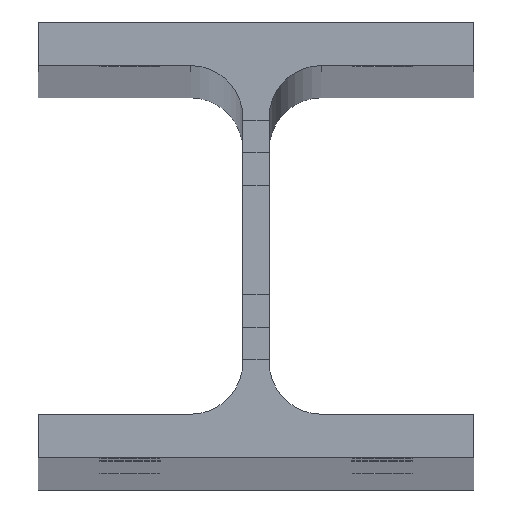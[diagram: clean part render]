
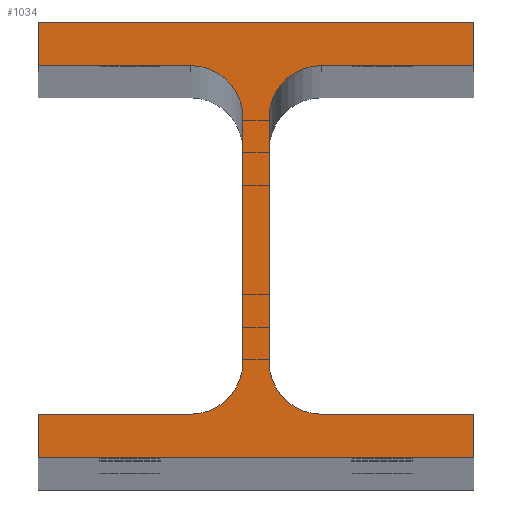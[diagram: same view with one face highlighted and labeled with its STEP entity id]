
A CAD part, top view. The second image highlights one B-rep face of the part: STEP entity #1034.
In plain terms, the highlighted planar face has unit normal (0, 0, 1).
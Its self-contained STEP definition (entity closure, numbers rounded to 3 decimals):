
#97 = DIRECTION ( 'NONE',  ( 0., 0., -1. ) ) ;
#137 = LINE ( 'NONE', #574, #2325 ) ;
#165 = CARTESIAN_POINT ( 'NONE',  ( 3., 28., 4250. ) ) ;
#179 = LINE ( 'NONE', #2292, #3612 ) ;
#199 = EDGE_CURVE ( 'NONE', #3141, #2068, #179, .T. ) ;
#304 = CIRCLE ( 'NONE', #5394, 12. ) ;
#369 = ORIENTED_EDGE ( 'NONE', *, *, #3674, .T. ) ;
#429 = ORIENTED_EDGE ( 'NONE', *, *, #556, .T. ) ;
#447 = DIRECTION ( 'NONE',  ( 1., 0., 0. ) ) ;
#527 = CARTESIAN_POINT ( 'NONE',  ( 50., -50., 4250. ) ) ;
#552 = VERTEX_POINT ( 'NONE', #3012 ) ;
#555 = DIRECTION ( 'NONE',  ( 0., 0., -1. ) ) ;
#556 = EDGE_CURVE ( 'NONE', #3086, #3516, #137, .T. ) ;
#564 = CIRCLE ( 'NONE', #3284, 12. ) ;
#574 = CARTESIAN_POINT ( 'NONE',  ( 3., 28., 4250. ) ) ;
#648 = LINE ( 'NONE', #1114, #2508 ) ;
#689 = DIRECTION ( 'NONE',  ( -1., 0., 0. ) ) ;
#722 = ORIENTED_EDGE ( 'NONE', *, *, #2072, .T. ) ;
#750 = DIRECTION ( 'NONE',  ( 1., 0., 0. ) ) ;
#816 = DIRECTION ( 'NONE',  ( 0., 0., -1. ) ) ;
#823 = DIRECTION ( 'NONE',  ( -1., 0., 0. ) ) ;
#926 = DIRECTION ( 'NONE',  ( 0., 0., -1. ) ) ;
#943 = FACE_OUTER_BOUND ( 'NONE', #1554, .T. ) ;
#961 = EDGE_CURVE ( 'NONE', #5264, #1382, #1646, .T. ) ;
#969 = PLANE ( 'NONE',  #3451 ) ;
#974 = CARTESIAN_POINT ( 'NONE',  ( -15., 40., 4250. ) ) ;
#1029 = DIRECTION ( 'NONE',  ( -1., 0., 0. ) ) ;
#1034 = ADVANCED_FACE ( 'NONE', ( #943 ), #969, .F. ) ;
#1114 = CARTESIAN_POINT ( 'NONE',  ( 15., -40., 4250. ) ) ;
#1252 = DIRECTION ( 'NONE',  ( -1., 0., 0. ) ) ;
#1379 = CARTESIAN_POINT ( 'NONE',  ( 50., 40., 4250. ) ) ;
#1382 = VERTEX_POINT ( 'NONE', #5033 ) ;
#1440 = VECTOR ( 'NONE', #3907, 1000. ) ;
#1476 = VECTOR ( 'NONE', #750, 1000. ) ;
#1554 = EDGE_LOOP ( 'NONE', ( #3763, #1886, #2619, #4282, #1608, #5419, #2458, #2626, #3957, #3307, #2639, #429, #2126, #722, #4816, #369 ) ) ;
#1566 = CARTESIAN_POINT ( 'NONE',  ( -3., -28., 4250. ) ) ;
#1604 = CARTESIAN_POINT ( 'NONE',  ( -15., -28., 4250. ) ) ;
#1608 = ORIENTED_EDGE ( 'NONE', *, *, #2646, .T. ) ;
#1643 = AXIS2_PLACEMENT_3D ( 'NONE', #3909, #97, #4238 ) ;
#1646 = LINE ( 'NONE', #2900, #3023 ) ;
#1662 = CARTESIAN_POINT ( 'NONE',  ( -50., -40., 4250. ) ) ;
#1811 = VECTOR ( 'NONE', #3611, 1000. ) ;
#1831 = LINE ( 'NONE', #1379, #1440 ) ;
#1839 = LINE ( 'NONE', #4373, #4700 ) ;
#1866 = CARTESIAN_POINT ( 'NONE',  ( -15., 28., 4250. ) ) ;
#1880 = CARTESIAN_POINT ( 'NONE',  ( -50., 50., 4250. ) ) ;
#1886 = ORIENTED_EDGE ( 'NONE', *, *, #5368, .T. ) ;
#2063 = DIRECTION ( 'NONE',  ( 0., 0., -1. ) ) ;
#2068 = VERTEX_POINT ( 'NONE', #4744 ) ;
#2072 = EDGE_CURVE ( 'NONE', #3421, #3141, #1831, .T. ) ;
#2126 = ORIENTED_EDGE ( 'NONE', *, *, #4924, .T. ) ;
#2284 = DIRECTION ( 'NONE',  ( 0., 1., 0. ) ) ;
#2292 = CARTESIAN_POINT ( 'NONE',  ( 50., 50., 4250. ) ) ;
#2325 = VECTOR ( 'NONE', #2284, 1000. ) ;
#2362 = VECTOR ( 'NONE', #1252, 1000. ) ;
#2458 = ORIENTED_EDGE ( 'NONE', *, *, #4584, .T. ) ;
#2502 = VECTOR ( 'NONE', #689, 1000. ) ;
#2508 = VECTOR ( 'NONE', #1029, 1000. ) ;
#2599 = CIRCLE ( 'NONE', #4706, 12. ) ;
#2600 = CARTESIAN_POINT ( 'NONE',  ( 15., 28., 4250. ) ) ;
#2611 = DIRECTION ( 'NONE',  ( 1., 0., 0. ) ) ;
#2619 = ORIENTED_EDGE ( 'NONE', *, *, #4538, .T. ) ;
#2626 = ORIENTED_EDGE ( 'NONE', *, *, #5060, .T. ) ;
#2639 = ORIENTED_EDGE ( 'NONE', *, *, #2883, .T. ) ;
#2646 = EDGE_CURVE ( 'NONE', #2737, #4743, #304, .T. ) ;
#2737 = VERTEX_POINT ( 'NONE', #4226 ) ;
#2807 = CARTESIAN_POINT ( 'NONE',  ( 50., -40., 4250. ) ) ;
#2849 = CARTESIAN_POINT ( 'NONE',  ( 3., -28., 4250. ) ) ;
#2883 = EDGE_CURVE ( 'NONE', #5009, #3086, #564, .T. ) ;
#2891 = LINE ( 'NONE', #1662, #2362 ) ;
#2900 = CARTESIAN_POINT ( 'NONE',  ( -50., 40., 4250. ) ) ;
#2923 = CARTESIAN_POINT ( 'NONE',  ( -15., -40., 4250. ) ) ;
#2972 = DIRECTION ( 'NONE',  ( -1., 0., 0. ) ) ;
#3012 = CARTESIAN_POINT ( 'NONE',  ( -50., -50., 4250. ) ) ;
#3023 = VECTOR ( 'NONE', #4323, 1000. ) ;
#3086 = VERTEX_POINT ( 'NONE', #2849 ) ;
#3141 = VERTEX_POINT ( 'NONE', #4855 ) ;
#3152 = EDGE_CURVE ( 'NONE', #4799, #2737, #3637, .T. ) ;
#3209 = CARTESIAN_POINT ( 'NONE',  ( -50., 50., 4250. ) ) ;
#3284 = AXIS2_PLACEMENT_3D ( 'NONE', #3645, #816, #5363 ) ;
#3301 = CIRCLE ( 'NONE', #1643, 12. ) ;
#3307 = ORIENTED_EDGE ( 'NONE', *, *, #3911, .T. ) ;
#3421 = VERTEX_POINT ( 'NONE', #4610 ) ;
#3451 = AXIS2_PLACEMENT_3D ( 'NONE', #2600, #555, #2972 ) ;
#3516 = VERTEX_POINT ( 'NONE', #165 ) ;
#3554 = VECTOR ( 'NONE', #447, 1000. ) ;
#3611 = DIRECTION ( 'NONE',  ( 0., -1., 0. ) ) ;
#3612 = VECTOR ( 'NONE', #3651, 1000. ) ;
#3637 = LINE ( 'NONE', #1566, #4073 ) ;
#3645 = CARTESIAN_POINT ( 'NONE',  ( 15., -28., 4250. ) ) ;
#3651 = DIRECTION ( 'NONE',  ( 0., 1., 0. ) ) ;
#3652 = CARTESIAN_POINT ( 'NONE',  ( -15., 40., 4250. ) ) ;
#3674 = EDGE_CURVE ( 'NONE', #2068, #5264, #4456, .T. ) ;
#3763 = ORIENTED_EDGE ( 'NONE', *, *, #961, .T. ) ;
#3907 = DIRECTION ( 'NONE',  ( 1., 0., 0. ) ) ;
#3909 = CARTESIAN_POINT ( 'NONE',  ( 15., 28., 4250. ) ) ;
#3911 = EDGE_CURVE ( 'NONE', #4404, #5009, #648, .T. ) ;
#3937 = CARTESIAN_POINT ( 'NONE',  ( -3., 28., 4250. ) ) ;
#3957 = ORIENTED_EDGE ( 'NONE', *, *, #4558, .T. ) ;
#4073 = VECTOR ( 'NONE', #5381, 1000. ) ;
#4119 = CARTESIAN_POINT ( 'NONE',  ( -50., -40., 4250. ) ) ;
#4226 = CARTESIAN_POINT ( 'NONE',  ( -3., -28., 4250. ) ) ;
#4238 = DIRECTION ( 'NONE',  ( -1., 0., 0. ) ) ;
#4282 = ORIENTED_EDGE ( 'NONE', *, *, #3152, .T. ) ;
#4323 = DIRECTION ( 'NONE',  ( 0., -1., 0. ) ) ;
#4370 = VERTEX_POINT ( 'NONE', #4119 ) ;
#4373 = CARTESIAN_POINT ( 'NONE',  ( 50., -40., 4250. ) ) ;
#4404 = VERTEX_POINT ( 'NONE', #2807 ) ;
#4449 = CARTESIAN_POINT ( 'NONE',  ( 15., -40., 4250. ) ) ;
#4456 = LINE ( 'NONE', #3209, #2502 ) ;
#4481 = LINE ( 'NONE', #4858, #1811 ) ;
#4526 = CARTESIAN_POINT ( 'NONE',  ( 50., -50., 4250. ) ) ;
#4538 = EDGE_CURVE ( 'NONE', #4871, #4799, #2599, .T. ) ;
#4558 = EDGE_CURVE ( 'NONE', #5126, #4404, #1839, .T. ) ;
#4584 = EDGE_CURVE ( 'NONE', #4370, #552, #4481, .T. ) ;
#4610 = CARTESIAN_POINT ( 'NONE',  ( 15., 40., 4250. ) ) ;
#4700 = VECTOR ( 'NONE', #4726, 1000. ) ;
#4706 = AXIS2_PLACEMENT_3D ( 'NONE', #1866, #926, #2611 ) ;
#4726 = DIRECTION ( 'NONE',  ( 0., 1., 0. ) ) ;
#4743 = VERTEX_POINT ( 'NONE', #2923 ) ;
#4744 = CARTESIAN_POINT ( 'NONE',  ( 50., 50., 4250. ) ) ;
#4799 = VERTEX_POINT ( 'NONE', #3937 ) ;
#4816 = ORIENTED_EDGE ( 'NONE', *, *, #199, .T. ) ;
#4855 = CARTESIAN_POINT ( 'NONE',  ( 50., 40., 4250. ) ) ;
#4858 = CARTESIAN_POINT ( 'NONE',  ( -50., -50., 4250. ) ) ;
#4871 = VERTEX_POINT ( 'NONE', #974 ) ;
#4924 = EDGE_CURVE ( 'NONE', #3516, #3421, #3301, .T. ) ;
#5008 = LINE ( 'NONE', #3652, #1476 ) ;
#5009 = VERTEX_POINT ( 'NONE', #4449 ) ;
#5033 = CARTESIAN_POINT ( 'NONE',  ( -50., 40., 4250. ) ) ;
#5060 = EDGE_CURVE ( 'NONE', #552, #5126, #5352, .T. ) ;
#5126 = VERTEX_POINT ( 'NONE', #527 ) ;
#5264 = VERTEX_POINT ( 'NONE', #1880 ) ;
#5304 = EDGE_CURVE ( 'NONE', #4743, #4370, #2891, .T. ) ;
#5352 = LINE ( 'NONE', #4526, #3554 ) ;
#5363 = DIRECTION ( 'NONE',  ( -1., 0., 0. ) ) ;
#5368 = EDGE_CURVE ( 'NONE', #1382, #4871, #5008, .T. ) ;
#5381 = DIRECTION ( 'NONE',  ( 0., -1., 0. ) ) ;
#5394 = AXIS2_PLACEMENT_3D ( 'NONE', #1604, #2063, #823 ) ;
#5419 = ORIENTED_EDGE ( 'NONE', *, *, #5304, .T. ) ;
